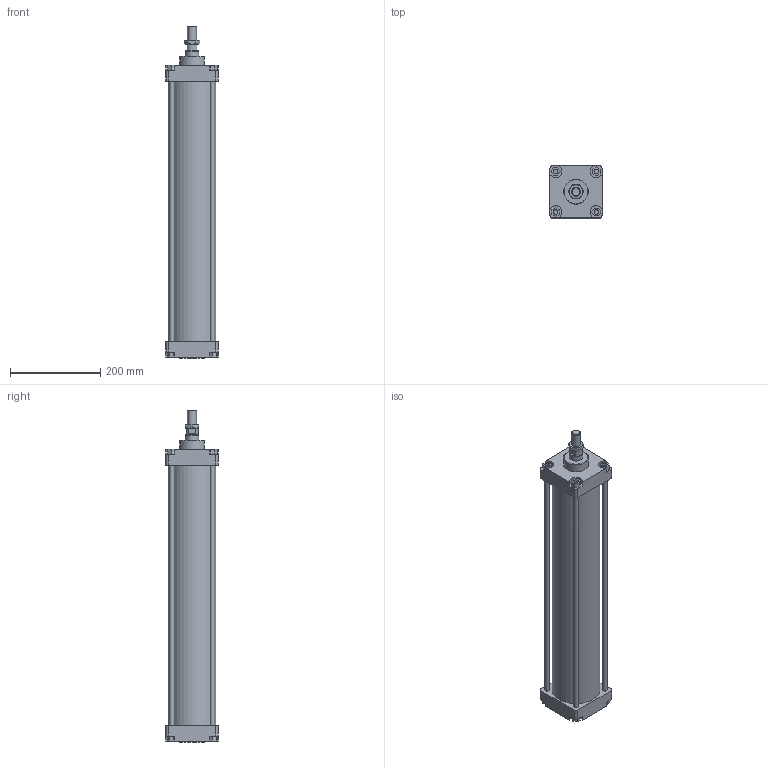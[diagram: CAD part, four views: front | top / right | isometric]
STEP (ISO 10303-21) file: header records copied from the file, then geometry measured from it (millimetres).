
FILE_DESCRIPTION(/* description */ (''),/* implementation_level */ '2;1');
FILE_NAME(/* name */ 'I:\Area Tecnica\Disegni\VARIE-3D\Componenti\CSP\Ø100\130#_100_####_###\130#_100_0500_01A.stp',/* time_stamp */ '2016-11-24T13:52:06+01:00',/* author */ ('Maniean1'),/* organization */ ('Pneumax S.p.A.'),/* preprocessor_version */ 'ST-DEVELOPER v15.2',/* originating_system */ 'Autodesk Inventor 2014',/* authorisation */ '');
FILE_SCHEMA (('AUTOMOTIVE_DESIGN { 1 0 10303 214 3 1 1 }'));
Length unit declared in the file: millimetre
Products named in the file (6): C_130#_100_0500; Testata anteriore_100; Testata posteriore_100; S_130#_100_0500_01A; 130#_100_18F; 130#_100_0500_01A
Bounding box: 115 x 115 x 734 mm (x, y, z)
Volume: 2601268.8 mm3; surface area: 657476.8 mm2
Topology: 9 solids, 9 shells, 162 faces, 380 edges, 249 vertices
Faces by surface type: plane 105, cylinder 42, cone 15
Full cylindrical faces by diameter (mm): 10 x12, 18.376 x1, 18.5 x1, 19 x2, 20 x1, 28 x1, 30 x3, 55 x2, 100 x2, 106 x1
Entity records: 4530 total; most frequent: CARTESIAN_POINT 785, DIRECTION 764, ORIENTED_EDGE 672, EDGE_CURVE 336, AXIS2_PLACEMENT_3D 271, VERTEX_POINT 244, EDGE_LOOP 236, LINE 222
